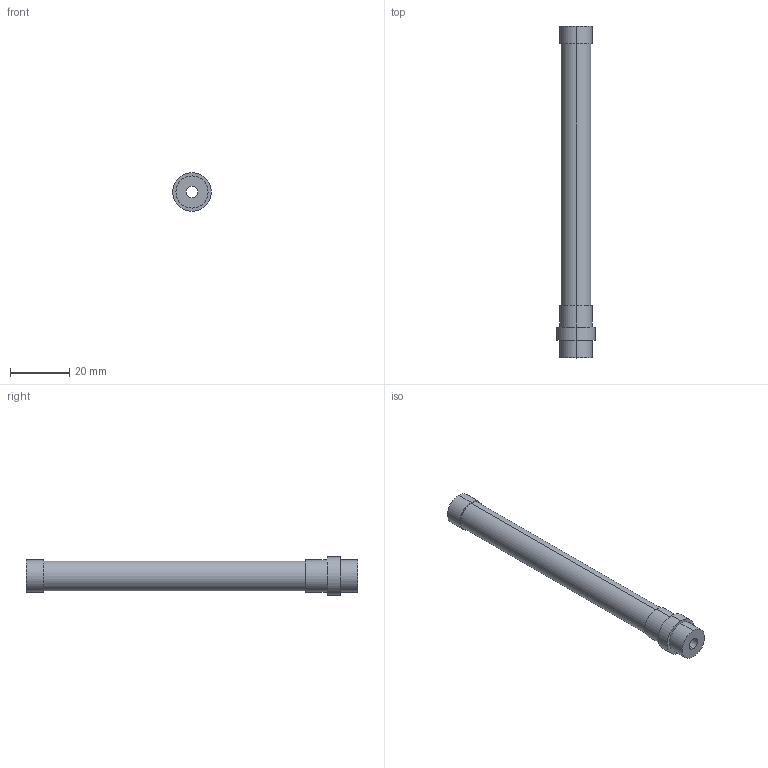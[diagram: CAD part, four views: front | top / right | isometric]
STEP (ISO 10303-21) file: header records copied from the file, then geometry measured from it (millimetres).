
FILE_DESCRIPTION (( 'STEP AP203' ), '1' );
FILE_NAME ('ER-VAK10.STEP', '2005-09-06T02:36:59', ( '' ), ( '' ), 'SwSTEP 2.0', 'SolidWorks 2004073', '' );
FILE_SCHEMA (( 'CONFIG_CONTROL_DESIGN' ));
Length unit declared in the file: millimetre
Products named in the file (1): ER-VAK10
Bounding box: 13 x 112 x 13 mm (x, y, z)
Volume: 7904.7 mm3; surface area: 5287 mm2
Topology: 1 solids, 1 shells, 18 faces, 36 edges, 24 vertices
Faces by surface type: cylinder 12, plane 6
Entity records: 565 total; most frequent: DIRECTION 98, CARTESIAN_POINT 79, ORIENTED_EDGE 72, AXIS2_PLACEMENT_3D 43, EDGE_CURVE 36, EDGE_LOOP 24, CIRCLE 24, VERTEX_POINT 24
